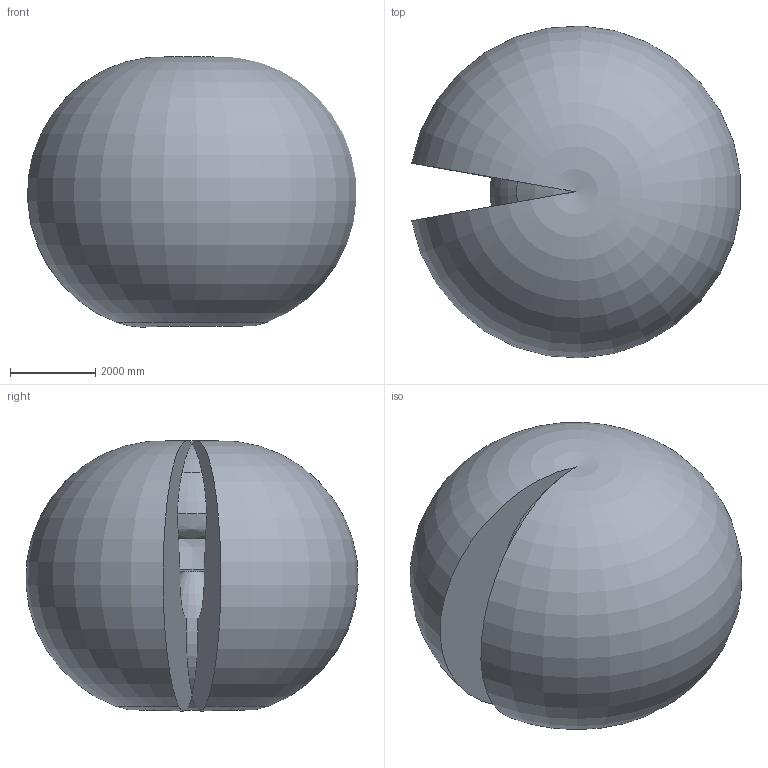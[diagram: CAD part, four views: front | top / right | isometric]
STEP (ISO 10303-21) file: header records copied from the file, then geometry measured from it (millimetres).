
FILE_DESCRIPTION (( 'STEP AP214' ), '1' );
FILE_NAME ('IRB6750S-LID_185kg-390_OC_00_Working-envelope.step', '2026-05-13T05:28:51', ( '' ), ( '' ), 'SwSTEP 2.0', 'SolidWorks 2024', '' );
FILE_SCHEMA (( 'AUTOMOTIVE_DESIGN' ));
Length unit declared in the file: millimetre
Products named in the file (1): IRB6750S-LID_185kg-390_OC_00_Working-envelope
Bounding box: 7717.59 x 7792.12 x 6344.05 mm (x, y, z)
Volume: 186654498257.9 mm3; surface area: 240308436.2 mm2
Topology: 1 solids, 1 shells, 17 faces, 49 edges, 26 vertices
Faces by surface type: torus 10, plane 6, bspline 1
Entity records: 588 total; most frequent: CARTESIAN_POINT 142, DIRECTION 108, ORIENTED_EDGE 82, AXIS2_PLACEMENT_3D 54, EDGE_CURVE 41, CIRCLE 37, VERTEX_POINT 26, EDGE_LOOP 17
